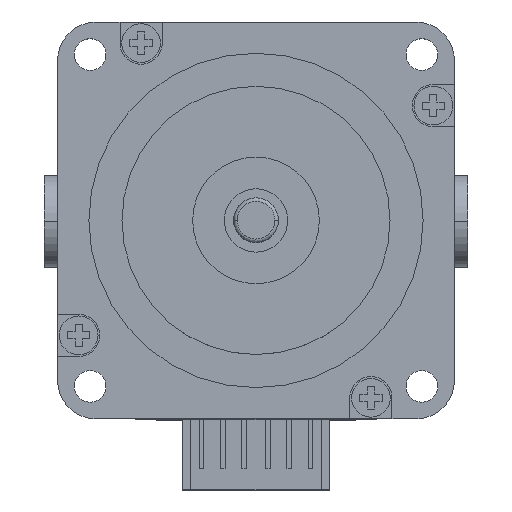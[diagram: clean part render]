
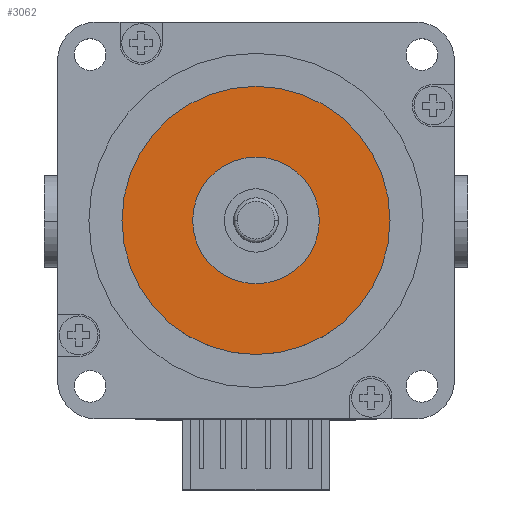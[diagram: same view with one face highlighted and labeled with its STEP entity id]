
A CAD part, top view. The second image highlights one B-rep face of the part: STEP entity #3062.
In plain terms, the highlighted planar face has unit normal (0, 0, 1).
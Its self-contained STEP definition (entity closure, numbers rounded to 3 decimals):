
#280 = CIRCLE ( 'NONE', #1655, 9. ) ;
#307 = CARTESIAN_POINT ( 'NONE',  ( 0., 0., 1.6 ) ) ;
#590 = AXIS2_PLACEMENT_3D ( 'NONE', #4426, #2187, #6572 ) ;
#919 = DIRECTION ( 'NONE',  ( 1., 0., 0. ) ) ;
#1116 = DIRECTION ( 'NONE',  ( 0., 0., -1. ) ) ;
#1371 = EDGE_LOOP ( 'NONE', ( #3539, #5376 ) ) ;
#1655 = AXIS2_PLACEMENT_3D ( 'NONE', #8657, #5284, #8826 ) ;
#2187 = DIRECTION ( 'NONE',  ( 0., 0., 1. ) ) ;
#2458 = EDGE_CURVE ( 'NONE', #9204, #3406, #8872, .T. ) ;
#2786 = FACE_BOUND ( 'NONE', #1371, .T. ) ;
#3062 = ADVANCED_FACE ( 'NONE', ( #2786, #5387 ), #6674, .F. ) ;
#3406 = VERTEX_POINT ( 'NONE', #5251 ) ;
#3453 = AXIS2_PLACEMENT_3D ( 'NONE', #8297, #4048, #6182 ) ;
#3539 = ORIENTED_EDGE ( 'NONE', *, *, #7135, .F. ) ;
#3622 = VERTEX_POINT ( 'NONE', #6177 ) ;
#3709 = EDGE_CURVE ( 'NONE', #3406, #9204, #6036, .T. ) ;
#4048 = DIRECTION ( 'NONE',  ( 0., 0., 1. ) ) ;
#4426 = CARTESIAN_POINT ( 'NONE',  ( 0., 0., 1.6 ) ) ;
#4961 = DIRECTION ( 'NONE',  ( -1., 0., 0. ) ) ;
#5219 = DIRECTION ( 'NONE',  ( 0., 0., 1. ) ) ;
#5251 = CARTESIAN_POINT ( 'NONE',  ( -19.05, 0., 1.6 ) ) ;
#5284 = DIRECTION ( 'NONE',  ( 0., 0., 1. ) ) ;
#5289 = ORIENTED_EDGE ( 'NONE', *, *, #3709, .T. ) ;
#5346 = ORIENTED_EDGE ( 'NONE', *, *, #2458, .T. ) ;
#5376 = ORIENTED_EDGE ( 'NONE', *, *, #7362, .F. ) ;
#5387 = FACE_OUTER_BOUND ( 'NONE', #8861, .T. ) ;
#5786 = AXIS2_PLACEMENT_3D ( 'NONE', #7363, #5219, #919 ) ;
#6036 = CIRCLE ( 'NONE', #590, 19.05 ) ;
#6177 = CARTESIAN_POINT ( 'NONE',  ( 9., 0., 1.6 ) ) ;
#6182 = DIRECTION ( 'NONE',  ( -1., 0., 0. ) ) ;
#6369 = CARTESIAN_POINT ( 'NONE',  ( 19.05, 0., 1.6 ) ) ;
#6572 = DIRECTION ( 'NONE',  ( 1., 0., 0. ) ) ;
#6648 = AXIS2_PLACEMENT_3D ( 'NONE', #307, #1116, #4961 ) ;
#6674 = PLANE ( 'NONE',  #6648 ) ;
#7135 = EDGE_CURVE ( 'NONE', #9034, #3622, #280, .T. ) ;
#7362 = EDGE_CURVE ( 'NONE', #3622, #9034, #8235, .T. ) ;
#7363 = CARTESIAN_POINT ( 'NONE',  ( 0., 0., 1.6 ) ) ;
#8183 = CARTESIAN_POINT ( 'NONE',  ( -9., 0., 1.6 ) ) ;
#8235 = CIRCLE ( 'NONE', #3453, 9. ) ;
#8297 = CARTESIAN_POINT ( 'NONE',  ( 0., 0., 1.6 ) ) ;
#8657 = CARTESIAN_POINT ( 'NONE',  ( 0., 0., 1.6 ) ) ;
#8826 = DIRECTION ( 'NONE',  ( -1., 0., 0. ) ) ;
#8861 = EDGE_LOOP ( 'NONE', ( #5346, #5289 ) ) ;
#8872 = CIRCLE ( 'NONE', #5786, 19.05 ) ;
#9034 = VERTEX_POINT ( 'NONE', #8183 ) ;
#9204 = VERTEX_POINT ( 'NONE', #6369 ) ;
